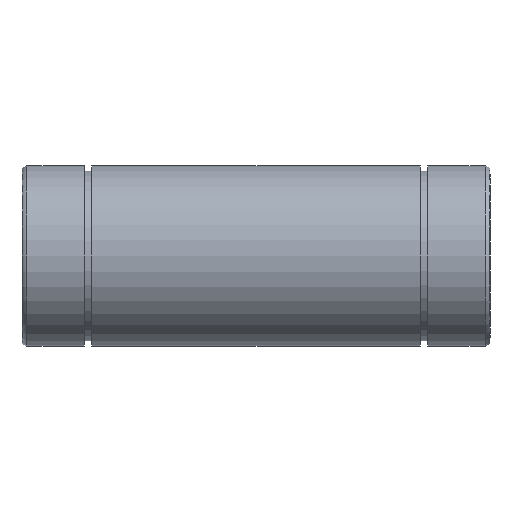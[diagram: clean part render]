
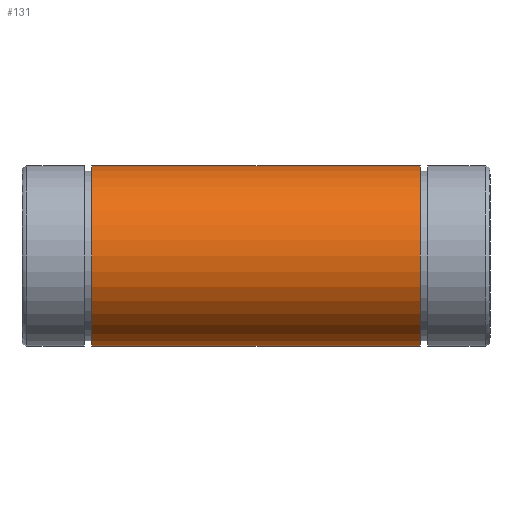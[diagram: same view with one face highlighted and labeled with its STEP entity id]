
A CAD part, front view. The second image highlights one B-rep face of the part: STEP entity #131.
In plain terms, the highlighted cylindrical face has radius 26 mm (diameter 52 mm), a full revolution.
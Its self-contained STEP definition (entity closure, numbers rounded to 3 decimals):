
#97=CARTESIAN_POINT('',(114.9,0.0,26.));
#98=VERTEX_POINT('',#97);
#99=CARTESIAN_POINT('',(114.9,0.0,0.));
#100=DIRECTION('',(-1.0,0.0,0.0));
#101=DIRECTION('',(0.0,0.0,1.0));
#102=AXIS2_PLACEMENT_3D('',#99,#100,#101);
#103=CIRCLE('',#102,26.);
#104=EDGE_CURVE('',#98,#98,#103,.T.);
#112=CARTESIAN_POINT('',(67.5,0.0,0.));
#113=DIRECTION('',(-1.0,0.0,0.0));
#114=DIRECTION('',(0.0,0.0,1.0));
#115=AXIS2_PLACEMENT_3D('',#112,#113,#114);
#116=CYLINDRICAL_SURFACE('',#115,26.);
#117=CARTESIAN_POINT('',(20.1,0.0,26.));
#118=VERTEX_POINT('',#117);
#119=CARTESIAN_POINT('',(20.1,0.0,0.));
#120=DIRECTION('',(-1.0,0.0,0.0));
#121=DIRECTION('',(0.0,0.0,1.0));
#122=AXIS2_PLACEMENT_3D('',#119,#120,#121);
#123=CIRCLE('',#122,26.);
#124=EDGE_CURVE('',#118,#118,#123,.T.);
#125=ORIENTED_EDGE('',*,*,#124,.F.);
#126=EDGE_LOOP('',(#125));
#127=FACE_OUTER_BOUND('',#126,.T.);
#128=ORIENTED_EDGE('',*,*,#104,.T.);
#129=EDGE_LOOP('',(#128));
#130=FACE_BOUND('',#129,.T.);
#131=ADVANCED_FACE('',(#127,#130),#116,.T.);
